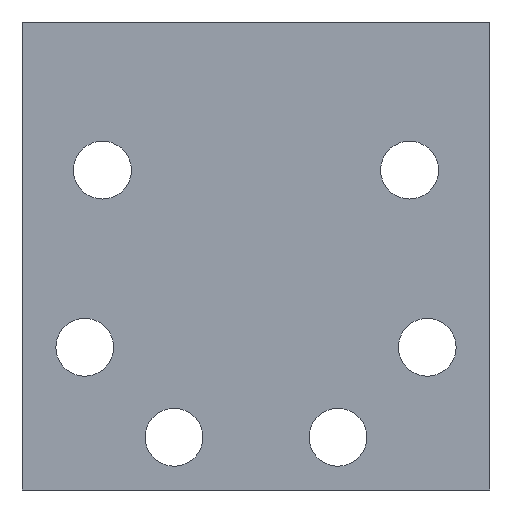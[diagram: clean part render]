
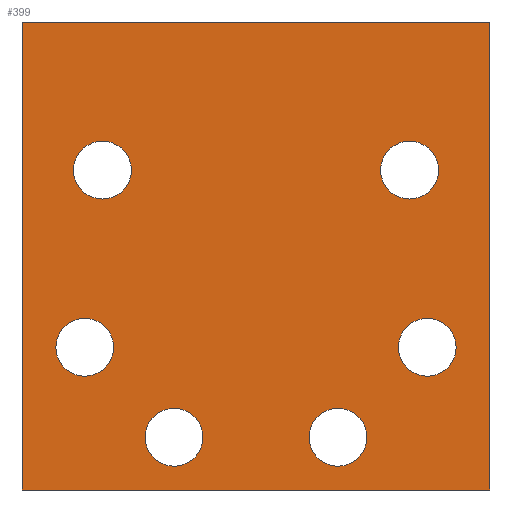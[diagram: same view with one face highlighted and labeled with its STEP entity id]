
A CAD part, front view. The second image highlights one B-rep face of the part: STEP entity #399.
In plain terms, the highlighted planar face has unit normal (0, -1, 0).
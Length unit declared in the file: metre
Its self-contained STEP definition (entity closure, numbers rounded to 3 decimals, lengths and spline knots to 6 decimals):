
#27=CIRCLE('',#438,0.0034);
#28=CIRCLE('',#439,0.0034);
#29=CIRCLE('',#440,0.0034);
#30=CIRCLE('',#441,0.0034);
#31=CIRCLE('',#442,0.0034);
#32=CIRCLE('',#443,0.0034);
#57=ORIENTED_EDGE('',*,*,#165,.F.);
#58=ORIENTED_EDGE('',*,*,#166,.T.);
#59=ORIENTED_EDGE('',*,*,#167,.F.);
#60=ORIENTED_EDGE('',*,*,#168,.T.);
#61=ORIENTED_EDGE('',*,*,#169,.T.);
#62=ORIENTED_EDGE('',*,*,#170,.F.);
#63=ORIENTED_EDGE('',*,*,#171,.F.);
#64=ORIENTED_EDGE('',*,*,#172,.T.);
#65=ORIENTED_EDGE('',*,*,#173,.F.);
#66=ORIENTED_EDGE('',*,*,#174,.T.);
#165=EDGE_CURVE('',#219,#219,#27,.T.);
#166=EDGE_CURVE('',#220,#220,#28,.F.);
#167=EDGE_CURVE('',#221,#222,#256,.T.);
#168=EDGE_CURVE('',#221,#223,#257,.T.);
#169=EDGE_CURVE('',#223,#224,#258,.T.);
#170=EDGE_CURVE('',#222,#224,#259,.T.);
#171=EDGE_CURVE('',#225,#225,#29,.T.);
#172=EDGE_CURVE('',#226,#226,#30,.F.);
#173=EDGE_CURVE('',#227,#227,#31,.T.);
#174=EDGE_CURVE('',#228,#228,#32,.F.);
#219=VERTEX_POINT('',#625);
#220=VERTEX_POINT('',#627);
#221=VERTEX_POINT('',#629);
#222=VERTEX_POINT('',#630);
#223=VERTEX_POINT('',#632);
#224=VERTEX_POINT('',#634);
#225=VERTEX_POINT('',#637);
#226=VERTEX_POINT('',#639);
#227=VERTEX_POINT('',#641);
#228=VERTEX_POINT('',#643);
#256=LINE('',#628,#284);
#257=LINE('',#631,#285);
#258=LINE('',#633,#286);
#259=LINE('',#635,#287);
#284=VECTOR('',#501,1.);
#285=VECTOR('',#502,1.);
#286=VECTOR('',#503,1.);
#287=VECTOR('',#504,1.);
#311=EDGE_LOOP('',(#57));
#312=EDGE_LOOP('',(#58));
#313=EDGE_LOOP('',(#59,#60,#61,#62));
#314=EDGE_LOOP('',(#63));
#315=EDGE_LOOP('',(#64));
#316=EDGE_LOOP('',(#65));
#317=EDGE_LOOP('',(#66));
#351=FACE_BOUND('',#311,.T.);
#352=FACE_BOUND('',#312,.T.);
#353=FACE_BOUND('',#313,.T.);
#354=FACE_BOUND('',#314,.T.);
#355=FACE_BOUND('',#315,.T.);
#356=FACE_BOUND('',#316,.T.);
#357=FACE_BOUND('',#317,.T.);
#389=PLANE('',#437);
#399=ADVANCED_FACE('',(#351,#352,#353,#354,#355,#356,#357),#389,.T.);
#437=AXIS2_PLACEMENT_3D('',#623,#495,#496);
#438=AXIS2_PLACEMENT_3D('',#624,#497,#498);
#439=AXIS2_PLACEMENT_3D('',#626,#499,#500);
#440=AXIS2_PLACEMENT_3D('',#636,#505,#506);
#441=AXIS2_PLACEMENT_3D('',#638,#507,#508);
#442=AXIS2_PLACEMENT_3D('',#640,#509,#510);
#443=AXIS2_PLACEMENT_3D('',#642,#511,#512);
#495=DIRECTION('',(0.,-1.,0.));
#496=DIRECTION('',(1.,0.,0.));
#497=DIRECTION('',(0.,-1.,0.));
#498=DIRECTION('',(0.,0.,-1.));
#499=DIRECTION('',(0.,-1.,0.));
#500=DIRECTION('',(0.,0.,-1.));
#501=DIRECTION('',(0.,0.,-1.));
#502=DIRECTION('',(-1.,0.,0.));
#503=DIRECTION('',(0.,0.,-1.));
#504=DIRECTION('',(-1.,0.,0.));
#505=DIRECTION('',(0.,-1.,0.));
#506=DIRECTION('',(0.,0.,-1.));
#507=DIRECTION('',(0.,-1.,0.));
#508=DIRECTION('',(0.,0.,-1.));
#509=DIRECTION('',(0.,-1.,0.));
#510=DIRECTION('',(0.,0.,-1.));
#511=DIRECTION('',(0.,-1.,0.));
#512=DIRECTION('',(0.,0.,-1.));
#623=CARTESIAN_POINT('',(0.,-0.023,0.0025));
#624=CARTESIAN_POINT('',(0.020125,-0.023,-0.008227));
#625=CARTESIAN_POINT('',(0.020125,-0.023,-0.011627));
#626=CARTESIAN_POINT('',(-0.020125,-0.023,-0.008227));
#627=CARTESIAN_POINT('',(-0.020125,-0.023,-0.011627));
#628=CARTESIAN_POINT('',(0.0275,-0.023,0.0025));
#629=CARTESIAN_POINT('',(0.0275,-0.023,0.03));
#630=CARTESIAN_POINT('',(0.0275,-0.023,-0.025));
#631=CARTESIAN_POINT('',(0.,-0.023,0.03));
#632=CARTESIAN_POINT('',(-0.0275,-0.023,0.03));
#633=CARTESIAN_POINT('',(-0.0275,-0.023,0.0025));
#634=CARTESIAN_POINT('',(-0.0275,-0.023,-0.025));
#635=CARTESIAN_POINT('',(0.,-0.023,-0.025));
#636=CARTESIAN_POINT('',(0.018043,-0.023,0.012591));
#637=CARTESIAN_POINT('',(0.018043,-0.023,0.009191));
#638=CARTESIAN_POINT('',(0.009633,-0.023,-0.018802));
#639=CARTESIAN_POINT('',(0.009633,-0.023,-0.022202));
#640=CARTESIAN_POINT('',(-0.009633,-0.023,-0.018802));
#641=CARTESIAN_POINT('',(-0.009633,-0.023,-0.022202));
#642=CARTESIAN_POINT('',(-0.018043,-0.023,0.012591));
#643=CARTESIAN_POINT('',(-0.018043,-0.023,0.009191));
